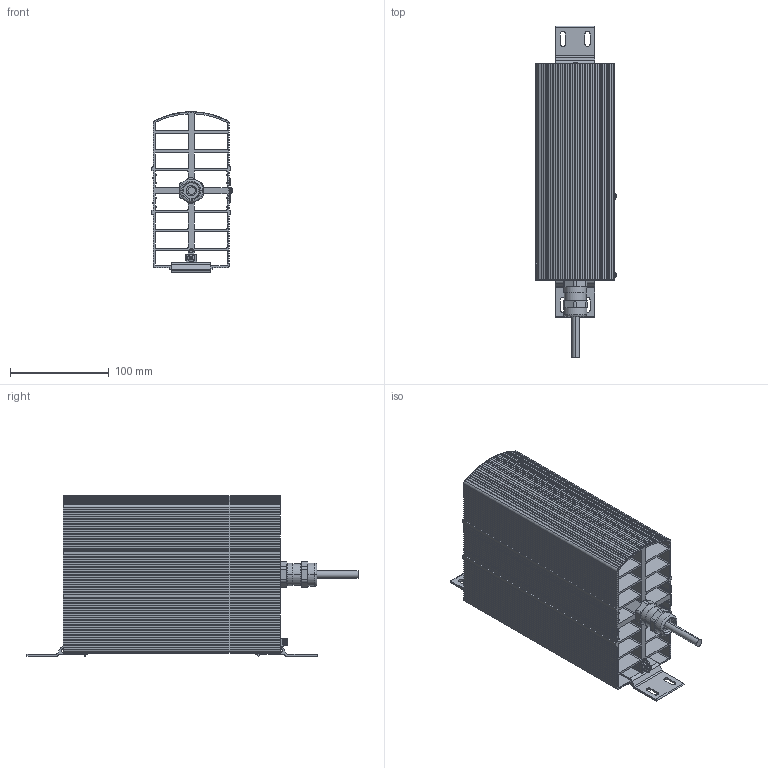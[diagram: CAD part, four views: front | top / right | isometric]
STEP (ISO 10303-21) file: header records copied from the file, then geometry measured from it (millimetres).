
FILE_DESCRIPTION (( 'STEP AP214' ), '1' );
FILE_NAME ('02043.x-1x_Ex-Heizgeraet.STEP', '2017-08-09T09:37:37', ( '' ), ( '' ), 'SwSTEP 2.0', 'SolidWorks 2017', '' );
FILE_SCHEMA (( 'AUTOMOTIVE_DESIGN' ));
Length unit declared in the file: millimetre
Products named in the file (1): 02043.x-1x_Ex-Heizgeraet
Bounding box: 81.66 x 337 x 162.8 mm (x, y, z)
Surface area: 481205.9 mm2 (no closed solid volume)
Topology: 0 solids, 14 shells, 796 faces, 3122 edges, 2169 vertices
Faces by surface type: plane 591, cylinder 180, torus 12, cone 6, sphere 6, bspline 1
Entity records: 41255 total; most frequent: CARTESIAN_POINT 6688, ORIENTED_EDGE 5170, DIRECTION 5076, EDGE_CURVE 3122, LINE 2588, VECTOR 2588, VERTEX_POINT 2169, AXIS2_PLACEMENT_3D 1244
